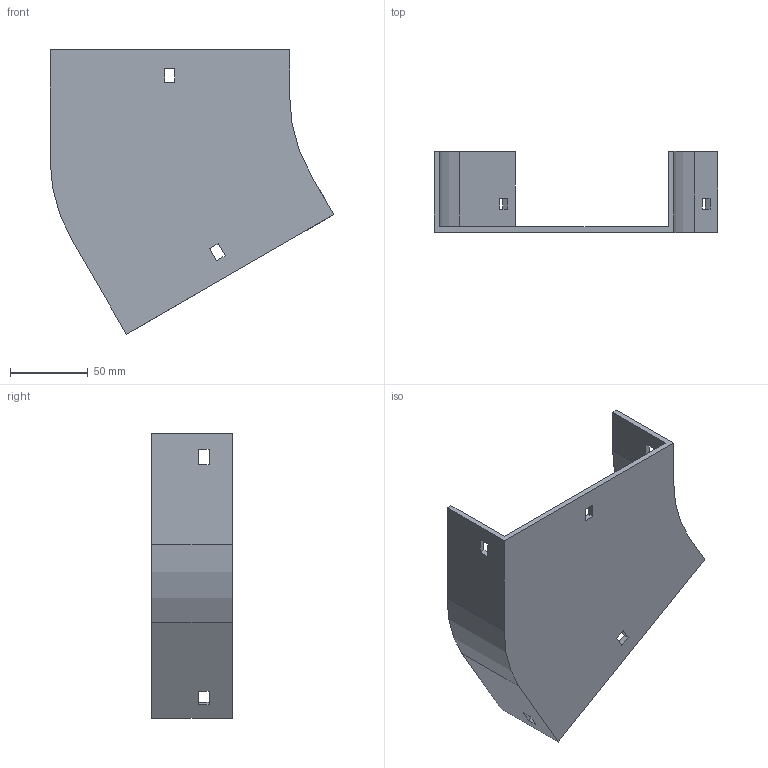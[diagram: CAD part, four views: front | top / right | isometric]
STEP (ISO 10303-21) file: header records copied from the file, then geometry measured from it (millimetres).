
FILE_DESCRIPTION (( 'STEP AP214' ), '1' );
FILE_NAME ('12F1B150.step', '2025-02-21T12:54:03', ( '' ), ( '' ), 'SwSTEP 2.0', 'SolidWorks 2023', '' );
FILE_SCHEMA (( 'AUTOMOTIVE_DESIGN' ));
Length unit declared in the file: millimetre
Products named in the file (1): 12F1B150
Bounding box: 182.4 x 52 x 182.98 mm (x, y, z)
Volume: 134232.2 mm3; surface area: 80229.5 mm2
Topology: 1 solids, 1 shells, 42 faces, 120 edges, 80 vertices
Faces by surface type: plane 38, cylinder 4
Entity records: 1399 total; most frequent: CARTESIAN_POINT 243, ORIENTED_EDGE 240, DIRECTION 214, EDGE_CURVE 120, LINE 112, VECTOR 112, VERTEX_POINT 80, EDGE_LOOP 54
